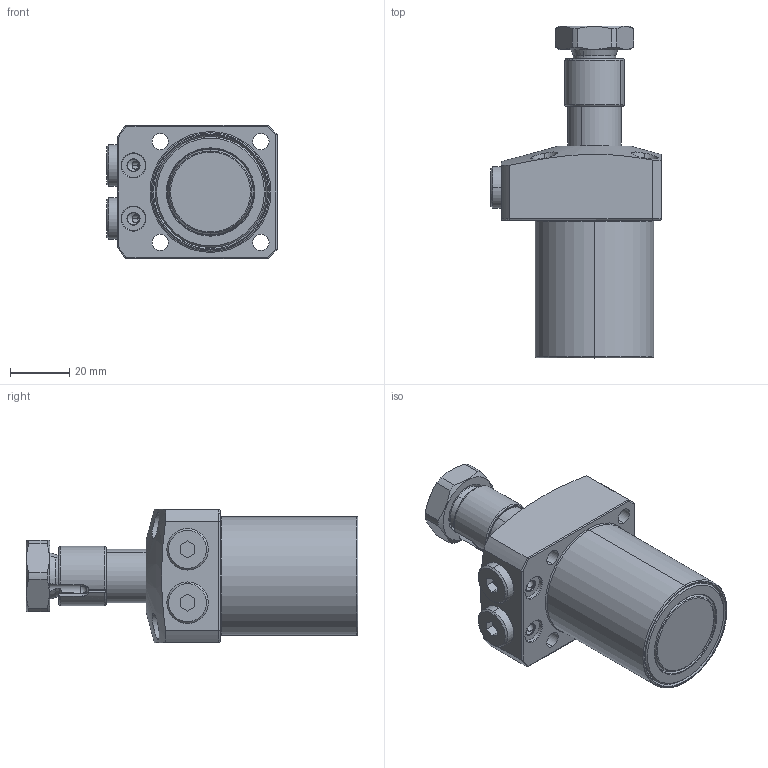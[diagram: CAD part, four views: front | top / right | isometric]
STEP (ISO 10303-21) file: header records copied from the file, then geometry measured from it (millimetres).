
FILE_DESCRIPTION(/* description */ (''),/* implementation_level */ '2;1');
FILE_NAME(/* name */ 'KTRC40-LN30.stp',/* time_stamp */ '2022-11-18T09:03:37+08:00',/* author */ (''),/* organization */ (''),/* preprocessor_version */ 'ST-DEVELOPER v16.7',/* originating_system */ 'SIEMENS PLM Software NX 12.0',/* authorisation */ '');
FILE_SCHEMA (('AP203_CONFIGURATION_CONTROLLED_3D_DESIGN_OF_MECHANICAL_PARTS_AND_ASSEMBLIES_MIM_LF { 1 0 10303 403 2 1 2}'));
Length unit declared in the file: millimetre
Products named in the file (7): KTRC40-LN30-05; KTRC40-LN30-02; KTRC40-LN30-04; KTRC40-LN30-01; KTRC40-LN30-03; KTRC40-LN30-06; LHA0400-CL-Y30_step
Assembly tree (7 placements, depth 2):
  LHA0400-CL-Y30_step
    KTRC40-LN30-06  x2
    KTRC40-LN30-03
    KTRC40-LN30-01
    KTRC40-LN30-04
    KTRC40-LN30-02
    KTRC40-LN30-05
Bounding box: 57.5 x 112 x 45 mm (x, y, z)
Volume: 122621.4 mm3; surface area: 26833.2 mm2
Topology: 7 solids, 7 shells, 238 faces, 569 edges, 357 vertices
Faces by surface type: cylinder 81, plane 78, cone 53, torus 24, sphere 2
Entity records: 8039 total; most frequent: CARTESIAN_POINT 1954, DIRECTION 1143, ORIENTED_EDGE 1078, EDGE_CURVE 539, AXIS2_PLACEMENT_3D 471, VERTEX_POINT 339, EDGE_LOOP 252, CIRCLE 238
